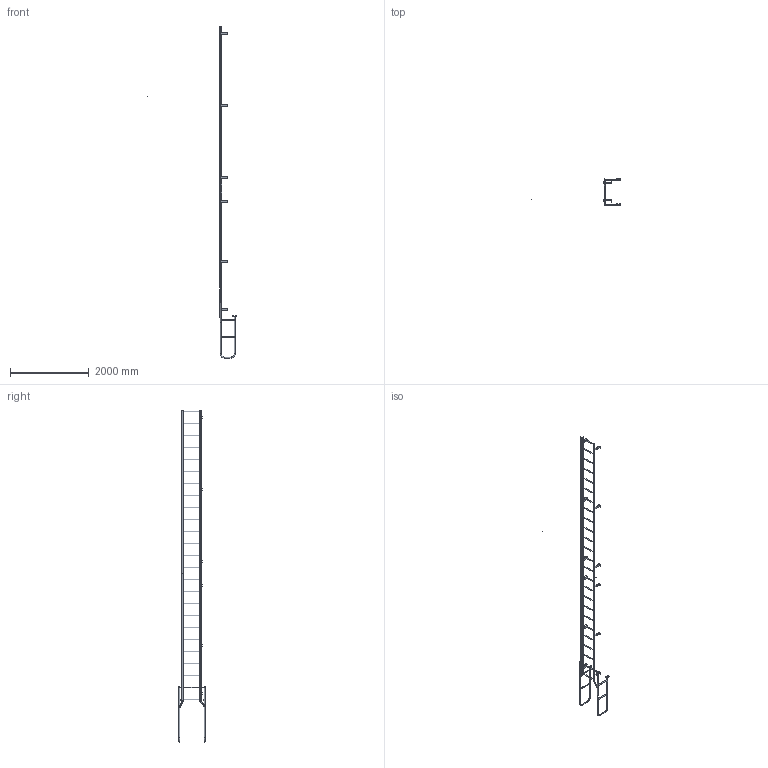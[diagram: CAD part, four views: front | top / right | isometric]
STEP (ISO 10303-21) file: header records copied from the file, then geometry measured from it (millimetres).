
FILE_DESCRIPTION(/* description */ (''),/* implementation_level */ '2;1');
FILE_NAME(/* name */ 'P:\MIKEL & KAREN\D0570353 F25W SIMPLIFIED PART.stp',/* time_stamp */ '2018-07-03T08:36:37-04:00',/* author */ ('stephanie'),/* organization */ (''),/* preprocessor_version */ 'ST-DEVELOPER v16.1',/* originating_system */ 'Autodesk Inventor 2016',/* authorisation */ '');
FILE_SCHEMA (('AUTOMOTIVE_DESIGN { 1 0 10303 214 3 1 1 }'));
Length unit declared in the file: centimetre
Products named in the file (1): D0570353 F25W SIMPLIFIED PART
Bounding box: 2261.4 x 685.8 x 8429.62 mm (x, y, z)
Volume: 13876939.2 mm3; surface area: 4935480.1 mm2
Topology: 34 solids, 34 shells, 468 faces, 1218 edges, 806 vertices
Faces by surface type: plane 256, cylinder 204, torus 8
Full cylindrical faces by diameter (mm): 0.254 x1, 10.319 x4, 14.287 x14, 19.05 x25, 22.098 x10, 22.225 x50, 25.4 x10
Entity records: 14352 total; most frequent: CARTESIAN_POINT 2635, DIRECTION 2384, ORIENTED_EDGE 2064, EDGE_CURVE 1028, AXIS2_PLACEMENT_3D 903, VERTEX_POINT 738, EDGE_LOOP 732, LINE 578
